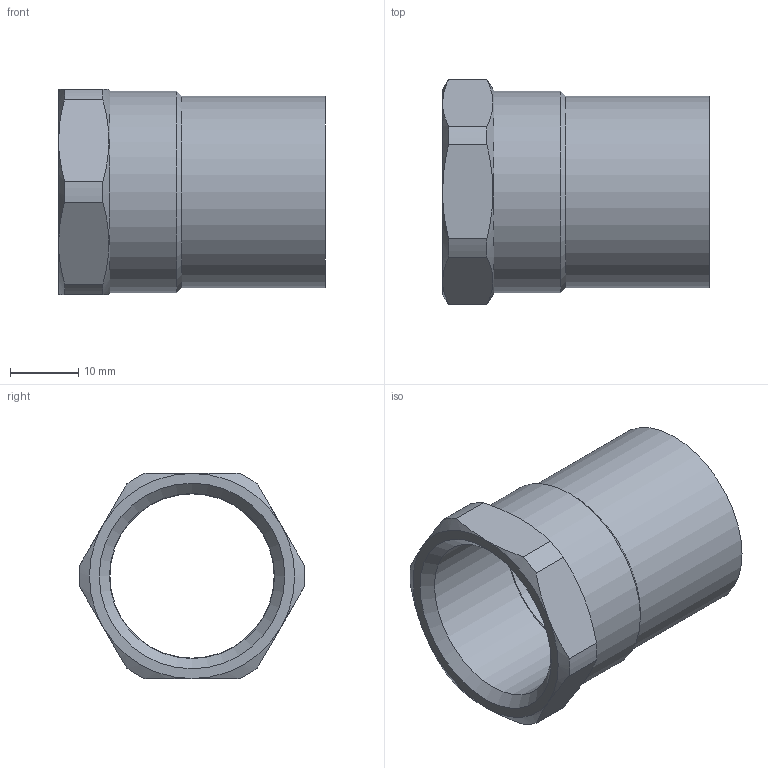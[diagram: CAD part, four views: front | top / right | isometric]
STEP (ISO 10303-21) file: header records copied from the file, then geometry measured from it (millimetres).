
FILE_DESCRIPTION((''),'2;1');
FILE_NAME('\\Lg50001\groups\SANHA Legnica\Engineering\Public\RYSUNKI\SANHA POLSKA\4246G\step\14246g_28-34(1).stp','2010-10-26T11:24:11',('pajchrowski'),(''),'Autodesk Inventor 2009','Autodesk Inventor 2009','');
FILE_SCHEMA(('AUTOMOTIVE_DESIGN { 1 0 10303 214 1 1 1 1 }'));
Length unit declared in the file: millimetre
Products named in the file (1): 14246g_28-34(1)
Bounding box: 39 x 32.99 x 30 mm (x, y, z)
Volume: 8012.4 mm3; surface area: 6985.1 mm2
Topology: 1 solids, 1 shells, 28 faces, 66 edges, 40 vertices
Faces by surface type: cone 10, cylinder 10, plane 8
Full cylindrical faces by diameter (mm): 24 x1, 24.117 x1, 28 x1, 29.5 x1
Entity records: 764 total; most frequent: CARTESIAN_POINT 161, DIRECTION 124, ORIENTED_EDGE 114, EDGE_CURVE 57, AXIS2_PLACEMENT_3D 56, VERTEX_POINT 39, EDGE_LOOP 38, FACE_OUTER_BOUND 28
